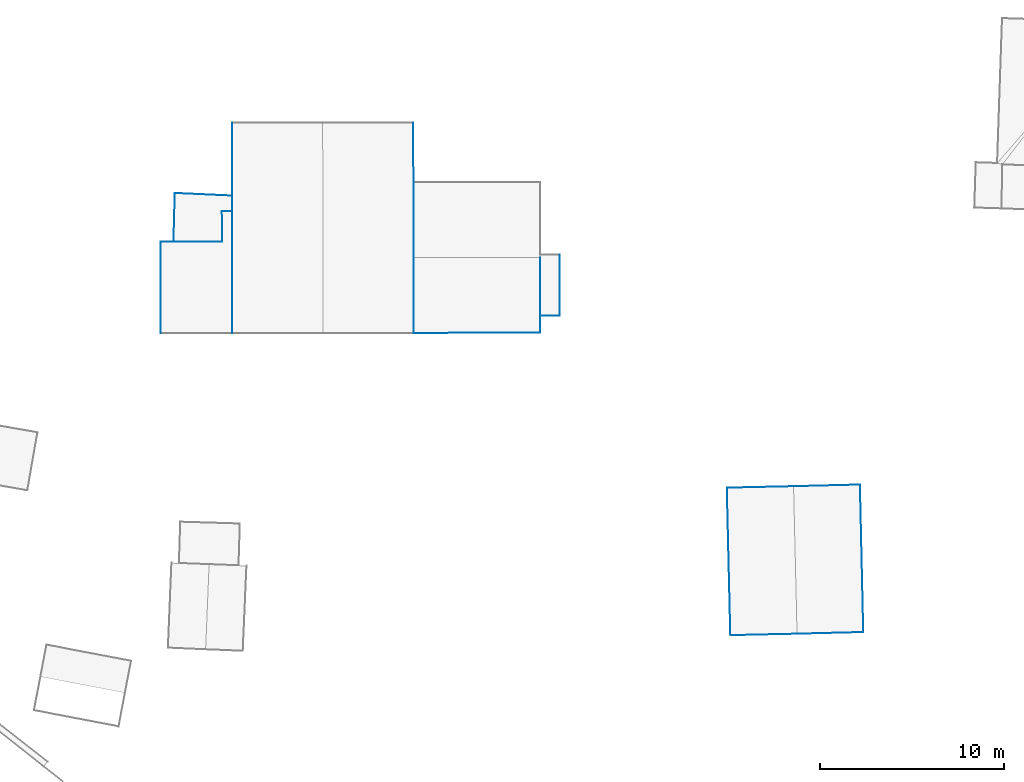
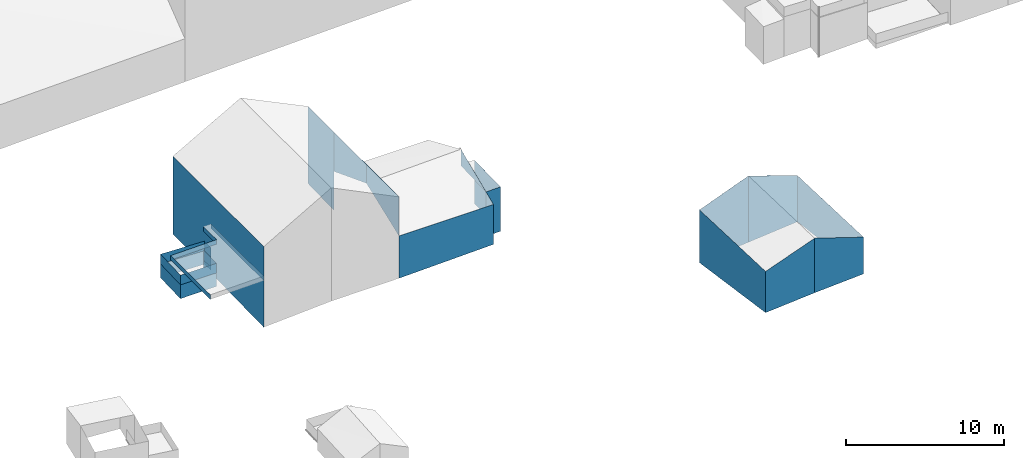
# Not in any storey, part 7 of 57: 39 walls.
"""IFC2X3 building model written with IfcOpenShell, lengths in metres."""

import ifcopenshell
import ifcopenshell.guid

model = None  # the IFC model being written
_history = None  # IfcOwnerHistory: only IFC2X3 demands one
_inside = {}  # id of a spatial element -> (the spatial element, [elements in it])
_under = {}  # id of a project, library or spatial element -> (it, [spatial elements below it])
_declared = {}  # id of a project -> (the project, [libraries it declares])
_typed = {}  # id of a type object -> (the type object, [elements of that type])
_made_of = {}  # id of a material, layer set ... -> (it, [elements and type objects made of it])


def new_model(schema):
    """Start an empty IFC model of exactly this schema.

    Asked for "IFC4X3", IfcOpenShell would pick the latest addendum, in which some entities
    have other attributes; the version numbers below select the first issue.
    IFC2X3 requires an IfcOwnerHistory on every rooted entity: one is made here for all.
    """
    global model, _history
    if schema == "IFC4X3":
        model = ifcopenshell.file(schema_version=(4, 3, 0, 0))
    else:
        model = ifcopenshell.file(schema=schema)
    _inside.clear()
    _under.clear()
    _declared.clear()
    _typed.clear()
    _made_of.clear()
    _history = None
    if model.schema == "IFC2X3":
        org = make("IfcOrganization", Name="unknown")
        user = make(
            "IfcPersonAndOrganization",
            ThePerson=make("IfcPerson", FamilyName="unknown"),
            TheOrganization=org,
        )
        app = make(
            "IfcApplication",
            ApplicationDeveloper=org,
            Version="unknown",
            ApplicationFullName="unknown",
            ApplicationIdentifier="unknown",
        )
        _history = make(
            "IfcOwnerHistory",
            OwningUser=user,
            OwningApplication=app,
            ChangeAction="ADDED",
            CreationDate=0,
        )
    return model


def make(cls, **values):
    """One entity of the class cls with the attributes given. An attribute that is None is left unset."""
    return model.create_entity(
        cls, **{name: value for name, value in values.items() if value is not None}
    )


def entity(cls, *values):
    """Any entity or typed value of the class cls, its attributes in the order of the schema. None: left unset."""
    e = model.create_entity(cls)
    for i, value in enumerate(values):
        if value is not None:
            e[i] = value
    return e


def rooted(cls, **values):
    """An entity with a GlobalId (a new one), such as an element, a storey or a relation."""
    return make(cls, GlobalId=ifcopenshell.guid.new(), OwnerHistory=_history, **values)


def si_unit(unit_type, name, prefix=None):
    """IfcSIUnit, for example si_unit("LENGTHUNIT", "METRE", prefix="MILLI")."""
    return make("IfcSIUnit", UnitType=unit_type, Prefix=prefix, Name=name)


def converted_unit(unit_type, name, factor, base, dimensions=None, offset=None):
    """IfcConversionBasedUnit, such as the inch: factor (a typed value) times the base unit."""
    return make(
        "IfcConversionBasedUnit"
        if offset is None
        else "IfcConversionBasedUnitWithOffset",
        ConversionOffset=offset,
        Dimensions=None
        if dimensions is None
        else entity("IfcDimensionalExponents", *dimensions),
        UnitType=unit_type,
        Name=name,
        ConversionFactor=make(
            "IfcMeasureWithUnit", ValueComponent=factor, UnitComponent=base
        ),
    )


def assignment(units):
    """IfcUnitAssignment: the units of a project."""
    return None if units is None else make("IfcUnitAssignment", Units=units)


def point(xyz):
    """IfcCartesianPoint."""
    return None if xyz is None else make("IfcCartesianPoint", Coordinates=xyz)


def direction(xyz):
    """IfcDirection."""
    return None if xyz is None else make("IfcDirection", DirectionRatios=xyz)


def frame(location, z_axis=None, x_axis=None):
    """IfcAxis2Placement3D, a coordinate frame: its origin and axes. An axis left out is left unset."""
    return make(
        "IfcAxis2Placement3D",
        Location=point(location),
        Axis=direction(z_axis),
        RefDirection=direction(x_axis),
    )


def origin():
    """The frame at (0, 0, 0) with its axes left unset."""
    return frame((0.0, 0.0, 0.0))


def place(relative_to, where):
    """IfcLocalPlacement: puts the frame where relative to a parent placement (None: the world)."""
    return make(
        "IfcLocalPlacement", PlacementRelTo=relative_to, RelativePlacement=where
    )


def context(
    kind, dimensions, precision=None, world=None, true_north=None, identifier=None
):
    """IfcGeometricRepresentationContext, for example the 3D "Model" context."""
    return make(
        "IfcGeometricRepresentationContext",
        ContextIdentifier=identifier,
        ContextType=kind,
        CoordinateSpaceDimension=dimensions,
        Precision=precision,
        WorldCoordinateSystem=world,
        TrueNorth=true_north,
    )


def subcontext(parent, identifier, kind, view, scale=None):
    """IfcGeometricRepresentationSubContext, for example "Body" below "Model"."""
    return make(
        "IfcGeometricRepresentationSubContext",
        ContextIdentifier=identifier,
        ContextType=kind,
        ParentContext=parent,
        TargetScale=scale,
        TargetView=view,
    )


def project(units=None, contexts=None):
    """IfcProject with its units and contexts."""
    return rooted(
        "IfcProject",
        Name="project",
        RepresentationContexts=contexts,
        UnitsInContext=assignment(units),
    )


def spatial(cls, under=None, at=None, **own):
    """A site, building, storey or space (cls), placed at a placement, below another one or the project."""
    s = rooted(cls, ObjectPlacement=at, **own)
    if under is not None:
        _under.setdefault(under.id(), (under, []))[1].append(s)
    return s


def faces_of(points, faces, orient=None, outer=None):
    """IfcFace entities. A face is a list of loops; a loop is a list of indices into points, from 0.

    orient and outer hold one flag for each loop. By default every Orientation is true, the
    first loop of a face is its IfcFaceOuterBound and the others are IfcFaceBound.
    """
    made = []
    for i, loops in enumerate(faces):
        bounds = []
        for j, loop in enumerate(loops):
            is_outer = j == 0 if outer is None else outer[i][j]
            bounds.append(
                make(
                    "IfcFaceOuterBound" if is_outer else "IfcFaceBound",
                    Bound=make("IfcPolyLoop", Polygon=[points[k] for k in loop]),
                    Orientation=True if orient is None else orient[i][j],
                )
            )
        made.append(make("IfcFace", Bounds=bounds))
    return made


def face_set(faces, orient=None, outer=None):
    """The faces of one IfcConnectedFaceSet. surface_model builds it on its shared points."""
    return ("IfcConnectedFaceSet", faces, orient, outer)


def surface_model(cls, points, shells):
    """IfcFaceBasedSurfaceModel or IfcShellBasedSurfaceModel (cls): surfaces that need not close."""
    shared = [point(p) for p in points]
    made = [make(c, CfsFaces=faces_of(shared, fs, o, b)) for c, fs, o, b in shells]
    if cls == "IfcFaceBasedSurfaceModel":
        return make(cls, FbsmFaces=made)
    return make(cls, SbsmBoundary=made)


def shape(context_of_items, identifier, shape_type, items):
    """IfcShapeRepresentation: the items that make up one representation, for example the "Body"."""
    return make(
        "IfcShapeRepresentation",
        ContextOfItems=context_of_items,
        RepresentationIdentifier=identifier,
        RepresentationType=shape_type,
        Items=items,
    )


def made_of(thing, what):
    """Note that an element or type object is made of a material, layer set ...; save() writes the relation."""
    if what is not None:
        _made_of.setdefault(what.id(), (what, []))[1].append(thing)
    return thing


def element(
    cls,
    number,
    at=None,
    inside=None,
    cuts=None,
    type_object=None,
    material=None,
    context=None,
    identifier="Body",
    shape_type=None,
    held_by="IfcProductDefinitionShape",
    body=None,
    shapes=None,
    **own,
):
    """One element of the class cls, such as IfcWall. Its Tag is "e" and its number.

    at: its placement. inside: the storey or other place that contains it. cuts: it is an
    opening in that element (IfcRelVoidsElement). A single representation is given by context,
    identifier, shape_type and body (its items); several are given by shapes. held_by: the class
    of the entity that holds the representations. save() writes the other relations.
    """
    e = rooted(cls, Tag="e%d" % number, ObjectPlacement=at, **own)
    if body is not None:
        shapes = [shape(context, identifier, shape_type, body)]
    if shapes is not None:
        e.Representation = make(held_by, Representations=shapes)
    if inside is not None:
        _inside.setdefault(inside.id(), (inside, []))[1].append(e)
    if cuts is not None:
        rooted(
            "IfcRelVoidsElement", RelatingBuildingElement=cuts, RelatedOpeningElement=e
        )
    if type_object is not None:
        _typed.setdefault(type_object.id(), (type_object, []))[1].append(e)
    return made_of(e, material)


def aggregate(whole, parts):
    """IfcRelAggregates: a whole, such as a stair, and the parts it consists of."""
    return rooted("IfcRelAggregates", RelatingObject=whole, RelatedObjects=parts)


def save(model, path):
    """Write the relations noted so far, then the file.

    IfcRelAggregates (storeys below a building ...), IfcRelContainedInSpatialStructure (elements
    in a storey), IfcRelDefinesByType, IfcRelAssociatesMaterial and IfcRelDeclares: one each for
    every whole, place, type object, material and project.
    """
    for whole, parts in _under.values():
        aggregate(whole, parts)
    for where, things in _inside.values():
        rooted(
            "IfcRelContainedInSpatialStructure",
            RelatedElements=things,
            RelatingStructure=where,
        )
    for kind, things in _typed.values():
        rooted("IfcRelDefinesByType", RelatedObjects=things, RelatingType=kind)
    for what, things in _made_of.values():
        rooted("IfcRelAssociatesMaterial", RelatedObjects=things, RelatingMaterial=what)
    for by, libraries in _declared.values():
        rooted("IfcRelDeclares", RelatingContext=by, RelatedDefinitions=libraries)
    model.write(path)


model = new_model("IFC2X3")

# Units and contexts
model_context = context("Model", 3, precision=1e-05, world=origin())
body_context = subcontext(model_context, "Body", "Model", "MODEL_VIEW")
ifc_project = project(units=[converted_unit("PLANEANGLEUNIT", "DEGREE", entity("IfcRatioMeasure", 0.0174532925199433), si_unit("PLANEANGLEUNIT", "RADIAN"), dimensions=[0, 0, 0, 0, 0, 0, 0]), si_unit("AREAUNIT", "SQUARE_METRE"), si_unit("LENGTHUNIT", "METRE")], contexts=[model_context])

# Site, building
site_placement = place(None, origin())
site = spatial("IfcSite", under=ifc_project, at=site_placement, Name="_site", CompositionType="ELEMENT")
building_1_placement = place(site_placement, origin())
building_1 = spatial("IfcBuilding", under=site, at=building_1_placement, Name="_building", CompositionType="ELEMENT")

# Walls
wall_1_placement = place(building_1_placement, origin())
element("IfcWall", 1, at=wall_1_placement, inside=building_1, Name="Wall", context=body_context, shape_type="SurfaceModel", body=[
    surface_model("IfcFaceBasedSurfaceModel", [(102.51, 78.949, 216.52), (98.9, 78.859, 217.75), (98.9, 78.859, 213.546), (102.51, 78.949, 213.68)], [face_set([[[0, 1, 2, 3]]])]),
])
wall_2_placement = place(building_1_placement, origin())
element("IfcWall", 2, at=wall_2_placement, inside=building_1, Name="Wall", context=body_context, shape_type="SurfaceModel", body=[
    surface_model("IfcFaceBasedSurfaceModel", [(98.9, 78.859, 217.75), (95.28, 78.779, 216.51), (95.28, 78.779, 213.326), (98.9, 78.859, 213.546)], [face_set([[[0, 1, 2, 3]]])]),
])
wall_3_placement = place(building_1_placement, origin())
element("IfcWall", 3, at=wall_3_placement, inside=building_1, Name="Wall", context=body_context, shape_type="SurfaceModel", body=[
    surface_model("IfcFaceBasedSurfaceModel", [(98.71, 86.881, 217.76), (102.33, 86.971, 216.46), (102.33, 86.971, 212.902), (98.71, 86.881, 212.639)], [face_set([[[0, 1, 2, 3]]])]),
])
wall_4_placement = place(building_1_placement, origin())
element("IfcWall", 4, at=wall_4_placement, inside=building_1, Name="Wall", context=body_context, shape_type="SurfaceModel", body=[
    surface_model("IfcFaceBasedSurfaceModel", [(95.09, 86.801, 216.45), (98.71, 86.881, 217.76), (98.71, 86.881, 212.639), (95.09, 86.801, 212.387)], [face_set([[[0, 1, 2, 3]]])]),
])
wall_5_placement = place(building_1_placement, origin())
element("IfcWall", 5, at=wall_5_placement, inside=building_1, Name="Wall", context=body_context, shape_type="SurfaceModel", body=[
    surface_model("IfcFaceBasedSurfaceModel", [(102.33, 86.971, 216.46), (102.51, 78.949, 216.52), (102.51, 78.949, 213.68), (102.33, 86.971, 212.902)], [face_set([[[0, 1, 2, 3]]])]),
])
wall_6_placement = place(building_1_placement, origin())
element("IfcWall", 6, at=wall_6_placement, inside=building_1, Name="Wall", context=body_context, shape_type="SurfaceModel", body=[
    surface_model("IfcFaceBasedSurfaceModel", [(95.28, 78.779, 216.51), (95.09, 86.801, 216.45), (95.09, 86.801, 212.387), (95.28, 78.779, 213.326)], [face_set([[[0, 1, 2, 3]]])]),
])

# Building
building_2_placement = place(site_placement, origin())
building_2 = spatial("IfcBuilding", under=site, at=building_2_placement, Name="_building", CompositionType="ELEMENT")

# Walls
for number, where, name in (
    (7, (0.0, 0.0, 0.0), "Wall"),
    (8, (0.0, 0.0, 0.0), "Wall"),
):
    element("IfcWall", number, at=place(building_2_placement, frame(where)), inside=building_2, Name=name, context=body_context, shape_type="SurfaceModel", body=[
        surface_model("IfcFaceBasedSurfaceModel", [(67.63, 100.199, 215.65), (67.62, 101.859, 215.66), (67.62, 101.859, 215.31), (67.63, 100.199, 215.3)], [face_set([[[0, 1, 2, 3]]])]),
    ])
for number, where, name in (
    (9, (0.0, 0.0, 0.0), "Wall"),
    (10, (0.0, 0.0, 0.0), "Wall"),
):
    element("IfcWall", number, at=place(building_2_placement, frame(where)), inside=building_2, Name=name, context=body_context, shape_type="SurfaceModel", body=[
        surface_model("IfcFaceBasedSurfaceModel", [(64.28, 100.199, 215.59), (67.63, 100.199, 215.65), (67.63, 100.199, 215.3), (64.28, 100.199, 215.24)], [face_set([[[0, 1, 2, 3]]])]),
    ])
for number, where, name in (
    (11, (0.0, 0.0, 0.0), "Wall"),
    (12, (0.0, 0.0, 0.0), "Wall"),
):
    element("IfcWall", number, at=place(building_2_placement, frame(where)), inside=building_2, Name=name, context=body_context, shape_type="SurfaceModel", body=[
        surface_model("IfcFaceBasedSurfaceModel", [(64.29, 95.211, 215.59), (64.28, 100.199, 215.59), (64.28, 100.199, 215.24), (64.29, 95.211, 215.24)], [face_set([[[0, 1, 2, 3]]])]),
    ])
wall_7_placement = place(building_2_placement, origin())
element("IfcWall", 13, at=wall_7_placement, inside=building_2, Name="Wall", context=body_context, shape_type="SurfaceModel", body=[
    surface_model("IfcFaceBasedSurfaceModel", [(67.63, 100.199, 213.082), (64.99, 100.199, 213.082), (64.99, 100.199, 213.832), (67.63, 100.199, 213.832)], [face_set([[[0, 1, 2, 3]]])]),
])
wall_8_placement = place(building_2_placement, origin())
element("IfcWall", 14, at=wall_8_placement, inside=building_2, Name="Wall", context=body_context, shape_type="SurfaceModel", body=[
    surface_model("IfcFaceBasedSurfaceModel", [(67.62, 101.859, 213.082), (67.63, 100.199, 213.082), (67.63, 100.199, 213.832), (67.62, 101.859, 213.832)], [face_set([[[0, 1, 2, 3]]])]),
])
wall_9_placement = place(building_2_placement, origin())
element("IfcWall", 15, at=wall_9_placement, inside=building_2, Name="Wall", context=body_context, shape_type="SurfaceModel", body=[
    surface_model("IfcFaceBasedSurfaceModel", [(65.06, 102.83, 213.082), (68.18, 102.689, 213.082), (68.18, 102.689, 213.832), (65.06, 102.83, 213.832)], [face_set([[[0, 1, 2, 3]]])]),
])
wall_10_placement = place(building_2_placement, origin())
element("IfcWall", 16, at=wall_10_placement, inside=building_2, Name="Wall", context=body_context, shape_type="SurfaceModel", body=[
    surface_model("IfcFaceBasedSurfaceModel", [(64.99, 100.199, 213.082), (65.06, 102.83, 213.082), (65.06, 102.83, 213.832), (64.99, 100.199, 213.832)], [face_set([[[0, 1, 2, 3]]])]),
])
wall_11_placement = place(building_2_placement, origin())
element("IfcWall", 17, at=wall_11_placement, inside=building_2, Name="Wall", context=body_context, shape_type="SurfaceModel", body=[
    surface_model("IfcFaceBasedSurfaceModel", [(67.63, 100.199, 213.082), (64.99, 100.199, 213.082), (64.99, 100.199, 213.832), (67.63, 100.199, 213.832)], [face_set([[[0, 1, 2, 3]]])]),
])
wall_12_placement = place(building_2_placement, origin())
element("IfcWall", 18, at=wall_12_placement, inside=building_2, Name="Wall", context=body_context, shape_type="SurfaceModel", body=[
    surface_model("IfcFaceBasedSurfaceModel", [(67.62, 101.859, 213.082), (67.63, 100.199, 213.082), (67.63, 100.199, 213.832), (67.62, 101.859, 213.832)], [face_set([[[0, 1, 2, 3]]])]),
])
wall_13_placement = place(building_2_placement, origin())
element("IfcWall", 19, at=wall_13_placement, inside=building_2, Name="Wall", context=body_context, shape_type="SurfaceModel", body=[
    surface_model("IfcFaceBasedSurfaceModel", [(65.06, 102.83, 213.082), (68.18, 102.689, 213.082), (68.18, 102.689, 213.832), (65.06, 102.83, 213.832)], [face_set([[[0, 1, 2, 3]]])]),
])
wall_14_placement = place(building_2_placement, origin())
element("IfcWall", 20, at=wall_14_placement, inside=building_2, Name="Wall", context=body_context, shape_type="SurfaceModel", body=[
    surface_model("IfcFaceBasedSurfaceModel", [(64.99, 100.199, 213.082), (65.06, 102.83, 213.082), (65.06, 102.83, 213.832), (64.99, 100.199, 213.832)], [face_set([[[0, 1, 2, 3]]])]),
])
wall_15_placement = place(building_2_placement, origin())
element("IfcWall", 21, at=wall_15_placement, inside=building_2, Name="Wall", context=body_context, shape_type="SurfaceModel", body=[
    surface_model("IfcFaceBasedSurfaceModel", [(68.18, 101.859, 213.082), (67.62, 101.859, 213.082), (67.62, 101.859, 212.067), (68.18, 101.859, 212.08)], [face_set([[[0, 1, 2, 3]]])]),
])
wall_16_placement = place(building_2_placement, origin())
element("IfcWall", 22, at=wall_16_placement, inside=building_2, Name="Wall", context=body_context, shape_type="SurfaceModel", body=[
    surface_model("IfcFaceBasedSurfaceModel", [(67.62, 101.859, 213.082), (67.63, 100.199, 213.082), (67.63, 100.199, 212.055), (67.62, 101.859, 212.067)], [face_set([[[0, 1, 2, 3]]])]),
])
wall_17_placement = place(building_2_placement, origin())
element("IfcWall", 23, at=wall_17_placement, inside=building_2, Name="Wall", context=body_context, shape_type="SurfaceModel", body=[
    surface_model("IfcFaceBasedSurfaceModel", [(67.63, 100.199, 213.082), (64.99, 100.199, 213.082), (64.99, 100.199, 212.019), (67.63, 100.199, 212.055)], [face_set([[[0, 1, 2, 3]]])]),
])
wall_18_placement = place(building_2_placement, origin())
element("IfcWall", 24, at=wall_18_placement, inside=building_2, Name="Wall", context=body_context, shape_type="SurfaceModel", body=[
    surface_model("IfcFaceBasedSurfaceModel", [(65.06, 102.83, 213.082), (68.18, 102.689, 213.082), (68.18, 102.689, 212.057), (65.06, 102.83, 212.012)], [face_set([[[0, 1, 2, 3]]])]),
])
wall_19_placement = place(building_2_placement, origin())
element("IfcWall", 25, at=wall_19_placement, inside=building_2, Name="Wall", context=body_context, shape_type="SurfaceModel", body=[
    surface_model("IfcFaceBasedSurfaceModel", [(64.99, 100.199, 213.082), (65.06, 102.83, 213.082), (65.06, 102.83, 212.012), (64.99, 100.199, 212.019)], [face_set([[[0, 1, 2, 3]]])]),
])

# Building
building_3_placement = place(site_placement, origin())
building_3 = spatial("IfcBuilding", under=site, at=building_3_placement, Name="_building", CompositionType="ELEMENT")

# Walls
wall_20_placement = place(building_3_placement, origin())
element("IfcWall", 26, at=wall_20_placement, inside=building_3, Name="Wall", context=body_context, shape_type="SurfaceModel", body=[
    surface_model("IfcFaceBasedSurfaceModel", [(78.04, 103.42, 218.35), (78.04, 99.32, 218.335), (78.04, 99.32, 216.88), (78.04, 103.42, 215.31)], [face_set([[[0, 1, 2, 3]]])]),
])
wall_21_placement = place(building_3_placement, origin())
element("IfcWall", 27, at=wall_21_placement, inside=building_3, Name="Wall", context=body_context, shape_type="SurfaceModel", body=[
    surface_model("IfcFaceBasedSurfaceModel", [(78.04, 99.32, 218.335), (78.04, 95.221, 218.32), (78.04, 95.221, 215.31), (78.04, 99.32, 216.88)], [face_set([[[0, 1, 2, 3]]])]),
])
wall_22_placement = place(building_3_placement, origin())
element("IfcWall", 28, at=wall_22_placement, inside=building_3, Name="Wall", context=body_context, shape_type="SurfaceModel", body=[
    surface_model("IfcFaceBasedSurfaceModel", [(84.93, 99.33, 217.09), (84.94, 96.17, 215.72), (84.94, 96.17, 215.7), (84.93, 99.33, 215.824)], [face_set([[[0, 1, 2, 3]]])]),
])
for number, where, name in (
    (29, (0.0, 0.0, 0.0), "Wall"),
    (30, (0.0, 0.0, 0.0), "Wall"),
):
    element("IfcWall", number, at=place(building_3_placement, frame(where)), inside=building_3, Name=name, context=body_context, shape_type="SurfaceModel", body=[
        surface_model("IfcFaceBasedSurfaceModel", [(68.18, 101.859, 215.66), (68.19, 95.221, 215.66), (68.19, 95.221, 215.31), (68.18, 101.859, 215.31)], [face_set([[[0, 1, 2, 3]]])]),
    ])
wall_23_placement = place(building_3_placement, origin())
element("IfcWall", 31, at=wall_23_placement, inside=building_3, Name="Wall", context=body_context, shape_type="SurfaceModel", body=[
    surface_model("IfcFaceBasedSurfaceModel", [(78.03, 106.67, 218.36), (78.04, 103.42, 218.35), (78.04, 103.42, 212.301), (78.03, 106.67, 212.408)], [face_set([[[0, 1, 2, 3]]])]),
])
wall_24_placement = place(building_3_placement, origin())
element("IfcWall", 32, at=wall_24_placement, inside=building_3, Name="Wall", context=body_context, shape_type="SurfaceModel", body=[
    surface_model("IfcFaceBasedSurfaceModel", [(68.19, 95.221, 217.93), (68.17, 106.66, 217.98), (68.17, 106.66, 211.976), (68.19, 95.221, 211.717)], [face_set([[[0, 1, 2, 3]]])]),
])
wall_25_placement = place(building_3_placement, origin())
element("IfcWall", 33, at=wall_25_placement, inside=building_3, Name="Wall", context=body_context, shape_type="SurfaceModel", body=[
    surface_model("IfcFaceBasedSurfaceModel", [(86.0, 99.49, 215.78), (86.0, 96.17, 215.73), (86.0, 96.17, 212.316), (86.0, 99.49, 212.449)], [face_set([[[0, 1, 2, 3]]])]),
])
wall_26_placement = place(building_3_placement, origin())
element("IfcWall", 34, at=wall_26_placement, inside=building_3, Name="Wall", context=body_context, shape_type="SurfaceModel", body=[
    surface_model("IfcFaceBasedSurfaceModel", [(86.0, 96.17, 215.73), (84.94, 96.17, 215.71), (84.94, 96.17, 212.276), (86.0, 96.17, 212.316)], [face_set([[[0, 1, 2, 3]]])]),
])
wall_27_placement = place(building_3_placement, origin())
element("IfcWall", 35, at=wall_27_placement, inside=building_3, Name="Wall", context=body_context, shape_type="SurfaceModel", body=[
    surface_model("IfcFaceBasedSurfaceModel", [(84.94, 96.17, 215.71), (84.94, 95.23, 215.31), (84.94, 95.23, 212.238), (84.94, 96.17, 212.276)], [face_set([[[0, 1, 2, 3]]])]),
])
wall_28_placement = place(building_3_placement, origin())
element("IfcWall", 36, at=wall_28_placement, inside=building_3, Name="Wall", context=body_context, shape_type="SurfaceModel", body=[
    surface_model("IfcFaceBasedSurfaceModel", [(84.94, 95.23, 215.31), (78.04, 95.221, 215.31), (78.04, 95.221, 212.04), (84.94, 95.23, 212.238)], [face_set([[[0, 1, 2, 3]]])]),
])
for number, where, name in (
    (37, (0.0, 0.0, 0.0), "Wall"),
    (38, (0.0, 0.0, 0.0), "Wall"),
):
    element("IfcWall", number, at=place(building_3_placement, frame(where)), inside=building_3, Name=name, context=body_context, shape_type="SurfaceModel", body=[
        surface_model("IfcFaceBasedSurfaceModel", [(68.18, 102.689, 213.082), (68.18, 101.859, 213.082), (68.18, 101.859, 213.832), (68.18, 102.689, 213.832)], [face_set([[[0, 1, 2, 3]]])]),
    ])
wall_29_placement = place(building_3_placement, origin())
element("IfcWall", 39, at=wall_29_placement, inside=building_3, Name="Wall", context=body_context, shape_type="SurfaceModel", body=[
    surface_model("IfcFaceBasedSurfaceModel", [(68.18, 102.689, 213.082), (68.18, 101.859, 213.082), (68.18, 101.859, 212.08), (68.18, 102.689, 212.057)], [face_set([[[0, 1, 2, 3]]])]),
])

save(model, "model.ifc")
